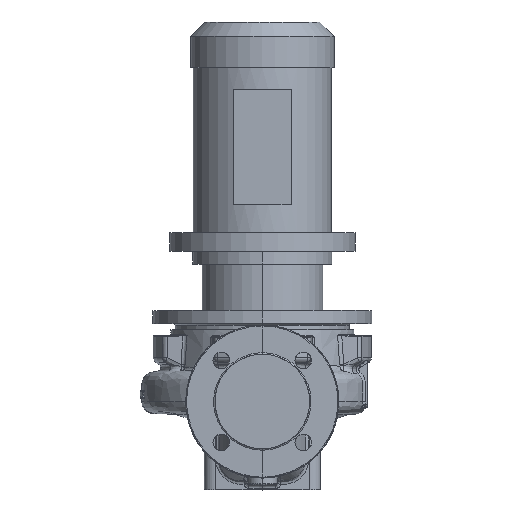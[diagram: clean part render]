
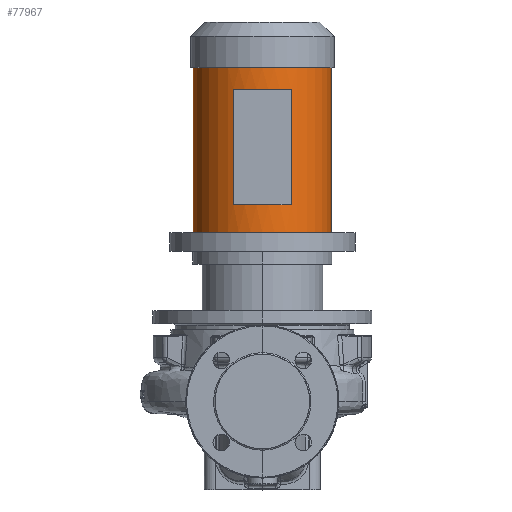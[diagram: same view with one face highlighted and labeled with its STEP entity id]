
A CAD part, top view. The second image highlights one B-rep face of the part: STEP entity #77967.
In plain terms, the highlighted cylindrical face has radius 74.5 mm (diameter 149 mm), a partial arc.
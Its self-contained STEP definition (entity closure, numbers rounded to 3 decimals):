
#803 = VECTOR ( 'NONE', #32422, 1000. ) ;
#1414 = DIRECTION ( 'NONE',  ( 0., 1., 0. ) ) ;
#1854 = CARTESIAN_POINT ( 'NONE',  ( 0., 162.3, 0. ) ) ;
#2169 = EDGE_CURVE ( 'NONE', #9997, #42867, #71852, .T. ) ;
#3270 = CARTESIAN_POINT ( 'NONE',  ( 74.5, 182.3, 0. ) ) ;
#5926 = CIRCLE ( 'NONE', #35239, 74.5 ) ;
#6208 = CARTESIAN_POINT ( 'NONE',  ( -74.5, 162.3, 0. ) ) ;
#7108 = CARTESIAN_POINT ( 'NONE',  ( -74.5, 360.3, 0. ) ) ;
#9997 = VERTEX_POINT ( 'NONE', #17738 ) ;
#10466 = DIRECTION ( 'NONE',  ( 1., 0., 0. ) ) ;
#11229 = AXIS2_PLACEMENT_3D ( 'NONE', #56742, #28246, #63868 ) ;
#12661 = VERTEX_POINT ( 'NONE', #3270 ) ;
#17738 = CARTESIAN_POINT ( 'NONE',  ( 31., 212.3, 67.744 ) ) ;
#21363 = FACE_BOUND ( 'NONE', #38590, .T. ) ;
#24426 = CARTESIAN_POINT ( 'NONE',  ( 31., 162.3, 67.744 ) ) ;
#26834 = CIRCLE ( 'NONE', #47615, 74.5 ) ;
#27004 = DIRECTION ( 'NONE',  ( 0., -1., 0. ) ) ;
#27607 = DIRECTION ( 'NONE',  ( 0., -1., 0. ) ) ;
#28246 = DIRECTION ( 'NONE',  ( 0., -1., 0. ) ) ;
#28543 = CARTESIAN_POINT ( 'NONE',  ( 0., 182.3, 0. ) ) ;
#30101 = ORIENTED_EDGE ( 'NONE', *, *, #35928, .F. ) ;
#30889 = VERTEX_POINT ( 'NONE', #45557 ) ;
#31571 = CIRCLE ( 'NONE', #11229, 74.5 ) ;
#32189 = VERTEX_POINT ( 'NONE', #52959 ) ;
#32422 = DIRECTION ( 'NONE',  ( 0., -1., 0. ) ) ;
#35239 = AXIS2_PLACEMENT_3D ( 'NONE', #86298, #58498, #44552 ) ;
#35928 = EDGE_CURVE ( 'NONE', #12661, #32189, #79644, .T. ) ;
#37139 = LINE ( 'NONE', #83232, #50445 ) ;
#38590 = EDGE_LOOP ( 'NONE', ( #78013, #84279, #66536, #75946 ) ) ;
#39802 = VERTEX_POINT ( 'NONE', #66893 ) ;
#40458 = VERTEX_POINT ( 'NONE', #7108 ) ;
#42775 = VECTOR ( 'NONE', #27004, 1000. ) ;
#42867 = VERTEX_POINT ( 'NONE', #80337 ) ;
#42935 = LINE ( 'NONE', #67723, #803 ) ;
#44552 = DIRECTION ( 'NONE',  ( -1., 0., 0. ) ) ;
#45481 = VERTEX_POINT ( 'NONE', #61914 ) ;
#45557 = CARTESIAN_POINT ( 'NONE',  ( 74.5, 360.3, 0. ) ) ;
#46199 = AXIS2_PLACEMENT_3D ( 'NONE', #28543, #27607, #56429 ) ;
#46395 = EDGE_CURVE ( 'NONE', #39802, #45481, #42935, .T. ) ;
#47615 = AXIS2_PLACEMENT_3D ( 'NONE', #75155, #53539, #10466 ) ;
#50445 = VECTOR ( 'NONE', #69333, 1000. ) ;
#52959 = CARTESIAN_POINT ( 'NONE',  ( -74.5, 182.3, 0. ) ) ;
#53035 = ORIENTED_EDGE ( 'NONE', *, *, #66597, .F. ) ;
#53539 = DIRECTION ( 'NONE',  ( 0., -1., 0. ) ) ;
#54679 = AXIS2_PLACEMENT_3D ( 'NONE', #1854, #80197, #73391 ) ;
#56429 = DIRECTION ( 'NONE',  ( 1., 0., 0. ) ) ;
#56742 = CARTESIAN_POINT ( 'NONE',  ( 0., 336.3, 0. ) ) ;
#58498 = DIRECTION ( 'NONE',  ( 0., 1., 0. ) ) ;
#60049 = ORIENTED_EDGE ( 'NONE', *, *, #79055, .T. ) ;
#61914 = CARTESIAN_POINT ( 'NONE',  ( -31., 212.3, 67.744 ) ) ;
#63868 = DIRECTION ( 'NONE',  ( 1., 0., 0. ) ) ;
#65859 = EDGE_CURVE ( 'NONE', #40458, #32189, #69346, .T. ) ;
#66536 = ORIENTED_EDGE ( 'NONE', *, *, #87590, .F. ) ;
#66597 = EDGE_CURVE ( 'NONE', #30889, #12661, #37139, .T. ) ;
#66893 = CARTESIAN_POINT ( 'NONE',  ( -31., 336.3, 67.744 ) ) ;
#67723 = CARTESIAN_POINT ( 'NONE',  ( -31., 162.3, 67.744 ) ) ;
#69333 = DIRECTION ( 'NONE',  ( 0., -1., 0. ) ) ;
#69346 = LINE ( 'NONE', #6208, #42775 ) ;
#71852 = LINE ( 'NONE', #24426, #74074 ) ;
#73391 = DIRECTION ( 'NONE',  ( 1., 0., 0. ) ) ;
#74074 = VECTOR ( 'NONE', #1414, 1000. ) ;
#75155 = CARTESIAN_POINT ( 'NONE',  ( 0., 360.3, 0. ) ) ;
#75700 = CYLINDRICAL_SURFACE ( 'NONE', #54679, 74.5 ) ;
#75946 = ORIENTED_EDGE ( 'NONE', *, *, #46395, .F. ) ;
#76946 = EDGE_CURVE ( 'NONE', #42867, #39802, #31571, .T. ) ;
#77967 = ADVANCED_FACE ( 'NONE', ( #21363, #84544 ), #75700, .T. ) ;
#78013 = ORIENTED_EDGE ( 'NONE', *, *, #76946, .F. ) ;
#79055 = EDGE_CURVE ( 'NONE', #30889, #40458, #26834, .T. ) ;
#79130 = EDGE_LOOP ( 'NONE', ( #60049, #83603, #30101, #53035 ) ) ;
#79644 = CIRCLE ( 'NONE', #46199, 74.5 ) ;
#80197 = DIRECTION ( 'NONE',  ( 0., -1., 0. ) ) ;
#80337 = CARTESIAN_POINT ( 'NONE',  ( 31., 336.3, 67.744 ) ) ;
#83232 = CARTESIAN_POINT ( 'NONE',  ( 74.5, 162.3, 0. ) ) ;
#83603 = ORIENTED_EDGE ( 'NONE', *, *, #65859, .T. ) ;
#84279 = ORIENTED_EDGE ( 'NONE', *, *, #2169, .F. ) ;
#84544 = FACE_OUTER_BOUND ( 'NONE', #79130, .T. ) ;
#86298 = CARTESIAN_POINT ( 'NONE',  ( 0., 212.3, 0. ) ) ;
#87590 = EDGE_CURVE ( 'NONE', #45481, #9997, #5926, .T. ) ;
